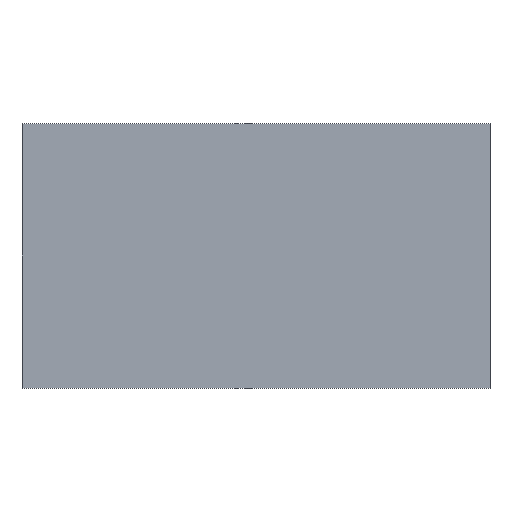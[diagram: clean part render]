
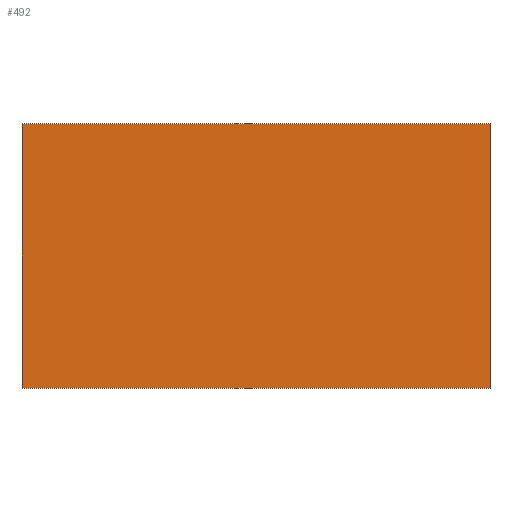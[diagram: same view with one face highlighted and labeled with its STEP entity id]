
A CAD part, front view. The second image highlights one B-rep face of the part: STEP entity #492.
In plain terms, the highlighted planar face has unit normal (0, -1, 0).
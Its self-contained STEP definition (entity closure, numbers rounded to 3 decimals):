
#21 = EDGE_CURVE('',#22,#24,#26,.T.);
#22 = VERTEX_POINT('',#23);
#23 = CARTESIAN_POINT('',(-49.,0.,32.075));
#24 = VERTEX_POINT('',#25);
#25 = CARTESIAN_POINT('',(-49.,0.,87.425));
#26 = SURFACE_CURVE('',#27,(#31,#43),.PCURVE_S1.);
#27 = LINE('',#28,#29);
#28 = CARTESIAN_POINT('',(-49.,0.,32.075));
#29 = VECTOR('',#30,1.);
#30 = DIRECTION('',(0.,0.,1.));
#31 = PCURVE('',#32,#37);
#32 = PLANE('',#33);
#33 = AXIS2_PLACEMENT_3D('',#34,#35,#36);
#34 = CARTESIAN_POINT('',(-49.,0.,32.075));
#35 = DIRECTION('',(1.,0.,0.));
#36 = DIRECTION('',(0.,0.,1.));
#37 = DEFINITIONAL_REPRESENTATION('',(#38),#42);
#38 = LINE('',#39,#40);
#39 = CARTESIAN_POINT('',(0.,0.));
#40 = VECTOR('',#41,1.);
#41 = DIRECTION('',(1.,0.));
#42 = ( GEOMETRIC_REPRESENTATION_CONTEXT(2) 
PARAMETRIC_REPRESENTATION_CONTEXT() REPRESENTATION_CONTEXT('2D SPACE',''
  ) );
#43 = PCURVE('',#44,#49);
#44 = PLANE('',#45);
#45 = AXIS2_PLACEMENT_3D('',#46,#47,#48);
#46 = CARTESIAN_POINT('',(-49.,0.,32.075));
#47 = DIRECTION('',(0.,1.,0.));
#48 = DIRECTION('',(0.,0.,1.));
#49 = DEFINITIONAL_REPRESENTATION('',(#50),#54);
#50 = LINE('',#51,#52);
#51 = CARTESIAN_POINT('',(0.,0.));
#52 = VECTOR('',#53,1.);
#53 = DIRECTION('',(1.,0.));
#54 = ( GEOMETRIC_REPRESENTATION_CONTEXT(2) 
PARAMETRIC_REPRESENTATION_CONTEXT() REPRESENTATION_CONTEXT('2D SPACE',''
  ) );
#72 = PLANE('',#73);
#73 = AXIS2_PLACEMENT_3D('',#74,#75,#76);
#74 = CARTESIAN_POINT('',(-49.,0.,32.075));
#75 = DIRECTION('',(0.,0.,1.));
#76 = DIRECTION('',(1.,0.,0.));
#182 = PLANE('',#183);
#183 = AXIS2_PLACEMENT_3D('',#184,#185,#186);
#184 = CARTESIAN_POINT('',(-49.,0.,87.425));
#185 = DIRECTION('',(0.,0.,1.));
#186 = DIRECTION('',(1.,0.,0.));
#198 = EDGE_CURVE('',#24,#199,#201,.T.);
#199 = VERTEX_POINT('',#200);
#200 = CARTESIAN_POINT('',(49.,0.,87.425));
#201 = SURFACE_CURVE('',#202,(#206,#213),.PCURVE_S1.);
#202 = LINE('',#203,#204);
#203 = CARTESIAN_POINT('',(-49.,0.,87.425));
#204 = VECTOR('',#205,1.);
#205 = DIRECTION('',(1.,0.,0.));
#206 = PCURVE('',#182,#207);
#207 = DEFINITIONAL_REPRESENTATION('',(#208),#212);
#208 = LINE('',#209,#210);
#209 = CARTESIAN_POINT('',(0.,0.));
#210 = VECTOR('',#211,1.);
#211 = DIRECTION('',(1.,0.));
#212 = ( GEOMETRIC_REPRESENTATION_CONTEXT(2) 
PARAMETRIC_REPRESENTATION_CONTEXT() REPRESENTATION_CONTEXT('2D SPACE',''
  ) );
#213 = PCURVE('',#44,#214);
#214 = DEFINITIONAL_REPRESENTATION('',(#215),#219);
#215 = LINE('',#216,#217);
#216 = CARTESIAN_POINT('',(55.35,0.));
#217 = VECTOR('',#218,1.);
#218 = DIRECTION('',(0.,1.));
#219 = ( GEOMETRIC_REPRESENTATION_CONTEXT(2) 
PARAMETRIC_REPRESENTATION_CONTEXT() REPRESENTATION_CONTEXT('2D SPACE',''
  ) );
#237 = PLANE('',#238);
#238 = AXIS2_PLACEMENT_3D('',#239,#240,#241);
#239 = CARTESIAN_POINT('',(49.,0.,32.075));
#240 = DIRECTION('',(1.,0.,0.));
#241 = DIRECTION('',(0.,0.,1.));
#273 = EDGE_CURVE('',#274,#199,#276,.T.);
#274 = VERTEX_POINT('',#275);
#275 = CARTESIAN_POINT('',(49.,0.,32.075));
#276 = SURFACE_CURVE('',#277,(#281,#288),.PCURVE_S1.);
#277 = LINE('',#278,#279);
#278 = CARTESIAN_POINT('',(49.,0.,32.075));
#279 = VECTOR('',#280,1.);
#280 = DIRECTION('',(0.,0.,1.));
#281 = PCURVE('',#237,#282);
#282 = DEFINITIONAL_REPRESENTATION('',(#283),#287);
#283 = LINE('',#284,#285);
#284 = CARTESIAN_POINT('',(0.,0.));
#285 = VECTOR('',#286,1.);
#286 = DIRECTION('',(1.,0.));
#287 = ( GEOMETRIC_REPRESENTATION_CONTEXT(2) 
PARAMETRIC_REPRESENTATION_CONTEXT() REPRESENTATION_CONTEXT('2D SPACE',''
  ) );
#288 = PCURVE('',#44,#289);
#289 = DEFINITIONAL_REPRESENTATION('',(#290),#294);
#290 = LINE('',#291,#292);
#291 = CARTESIAN_POINT('',(0.,98.));
#292 = VECTOR('',#293,1.);
#293 = DIRECTION('',(1.,0.));
#294 = ( GEOMETRIC_REPRESENTATION_CONTEXT(2) 
PARAMETRIC_REPRESENTATION_CONTEXT() REPRESENTATION_CONTEXT('2D SPACE',''
  ) );
#469 = EDGE_CURVE('',#22,#274,#470,.T.);
#470 = SURFACE_CURVE('',#471,(#475,#482),.PCURVE_S1.);
#471 = LINE('',#472,#473);
#472 = CARTESIAN_POINT('',(-49.,0.,32.075));
#473 = VECTOR('',#474,1.);
#474 = DIRECTION('',(1.,0.,0.));
#475 = PCURVE('',#72,#476);
#476 = DEFINITIONAL_REPRESENTATION('',(#477),#481);
#477 = LINE('',#478,#479);
#478 = CARTESIAN_POINT('',(0.,0.));
#479 = VECTOR('',#480,1.);
#480 = DIRECTION('',(1.,0.));
#481 = ( GEOMETRIC_REPRESENTATION_CONTEXT(2) 
PARAMETRIC_REPRESENTATION_CONTEXT() REPRESENTATION_CONTEXT('2D SPACE',''
  ) );
#482 = PCURVE('',#44,#483);
#483 = DEFINITIONAL_REPRESENTATION('',(#484),#488);
#484 = LINE('',#485,#486);
#485 = CARTESIAN_POINT('',(0.,0.));
#486 = VECTOR('',#487,1.);
#487 = DIRECTION('',(0.,1.));
#488 = ( GEOMETRIC_REPRESENTATION_CONTEXT(2) 
PARAMETRIC_REPRESENTATION_CONTEXT() REPRESENTATION_CONTEXT('2D SPACE',''
  ) );
#492 = ADVANCED_FACE('',(#493),#44,.F.);
#493 = FACE_BOUND('',#494,.F.);
#494 = EDGE_LOOP('',(#495,#496,#497,#498));
#495 = ORIENTED_EDGE('',*,*,#469,.F.);
#496 = ORIENTED_EDGE('',*,*,#21,.T.);
#497 = ORIENTED_EDGE('',*,*,#198,.T.);
#498 = ORIENTED_EDGE('',*,*,#273,.F.);
